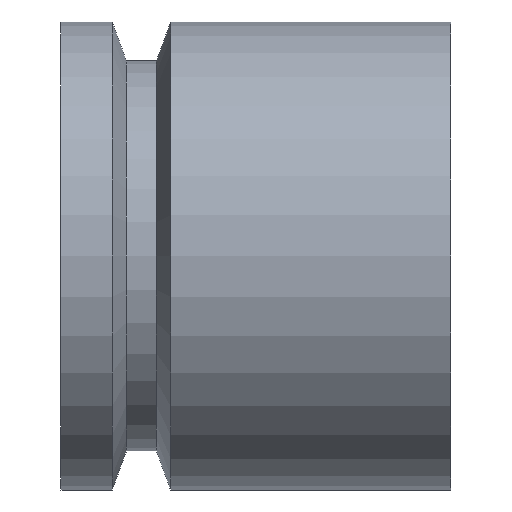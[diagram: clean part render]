
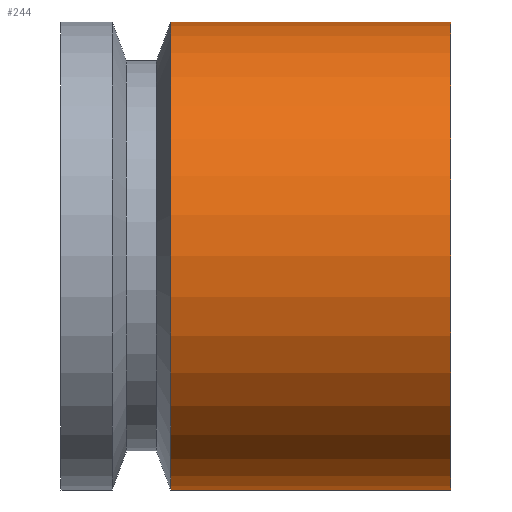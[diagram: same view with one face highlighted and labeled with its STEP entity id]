
A CAD part, front view. The second image highlights one B-rep face of the part: STEP entity #244.
In plain terms, the highlighted cylindrical face has radius 48 mm (diameter 96 mm), a partial arc.
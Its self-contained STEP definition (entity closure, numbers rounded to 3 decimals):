
#31 = EDGE_CURVE ( 'NONE', #461, #485, #479, .T. ) ;
#79 = AXIS2_PLACEMENT_3D ( 'NONE', #396, #402, #144 ) ;
#92 = CARTESIAN_POINT ( 'NONE',  ( 80., 0., -48. ) ) ;
#103 = EDGE_CURVE ( 'NONE', #485, #420, #331, .T. ) ;
#111 = VECTOR ( 'NONE', #356, 1000. ) ;
#113 = EDGE_CURVE ( 'NONE', #392, #420, #478, .T. ) ;
#124 = CARTESIAN_POINT ( 'NONE',  ( 0., 0., 0. ) ) ;
#125 = CARTESIAN_POINT ( 'NONE',  ( 80., 0., 48. ) ) ;
#141 = VECTOR ( 'NONE', #434, 1000. ) ;
#144 = DIRECTION ( 'NONE',  ( 0., 0., 1. ) ) ;
#146 = EDGE_CURVE ( 'NONE', #461, #392, #200, .T. ) ;
#180 = ORIENTED_EDGE ( 'NONE', *, *, #113, .T. ) ;
#183 = CYLINDRICAL_SURFACE ( 'NONE', #353, 48. ) ;
#200 = CIRCLE ( 'NONE', #269, 48. ) ;
#208 = ORIENTED_EDGE ( 'NONE', *, *, #103, .F. ) ;
#222 = ORIENTED_EDGE ( 'NONE', *, *, #31, .F. ) ;
#235 = DIRECTION ( 'NONE',  ( 0., 0., 1. ) ) ;
#244 = ADVANCED_FACE ( 'NONE', ( #440 ), #183, .T. ) ;
#269 = AXIS2_PLACEMENT_3D ( 'NONE', #523, #281, #403 ) ;
#272 = CARTESIAN_POINT ( 'NONE',  ( 0., 0., 48. ) ) ;
#281 = DIRECTION ( 'NONE',  ( -1., 0., 0. ) ) ;
#303 = CARTESIAN_POINT ( 'NONE',  ( 22.5, 0., -48. ) ) ;
#331 = CIRCLE ( 'NONE', #79, 48. ) ;
#353 = AXIS2_PLACEMENT_3D ( 'NONE', #124, #405, #235 ) ;
#356 = DIRECTION ( 'NONE',  ( -1., 0., 0. ) ) ;
#388 = CARTESIAN_POINT ( 'NONE',  ( 0., 0., -48. ) ) ;
#392 = VERTEX_POINT ( 'NONE', #125 ) ;
#396 = CARTESIAN_POINT ( 'NONE',  ( 22.5, 0., 0. ) ) ;
#402 = DIRECTION ( 'NONE',  ( -1., 0., 0. ) ) ;
#403 = DIRECTION ( 'NONE',  ( 0., 0., 1. ) ) ;
#405 = DIRECTION ( 'NONE',  ( -1., 0., 0. ) ) ;
#420 = VERTEX_POINT ( 'NONE', #493 ) ;
#434 = DIRECTION ( 'NONE',  ( -1., 0., 0. ) ) ;
#440 = FACE_OUTER_BOUND ( 'NONE', #519, .T. ) ;
#461 = VERTEX_POINT ( 'NONE', #92 ) ;
#469 = ORIENTED_EDGE ( 'NONE', *, *, #146, .T. ) ;
#478 = LINE ( 'NONE', #272, #111 ) ;
#479 = LINE ( 'NONE', #388, #141 ) ;
#485 = VERTEX_POINT ( 'NONE', #303 ) ;
#493 = CARTESIAN_POINT ( 'NONE',  ( 22.5, 0., 48. ) ) ;
#519 = EDGE_LOOP ( 'NONE', ( #222, #469, #180, #208 ) ) ;
#523 = CARTESIAN_POINT ( 'NONE',  ( 80., 0., 0. ) ) ;
